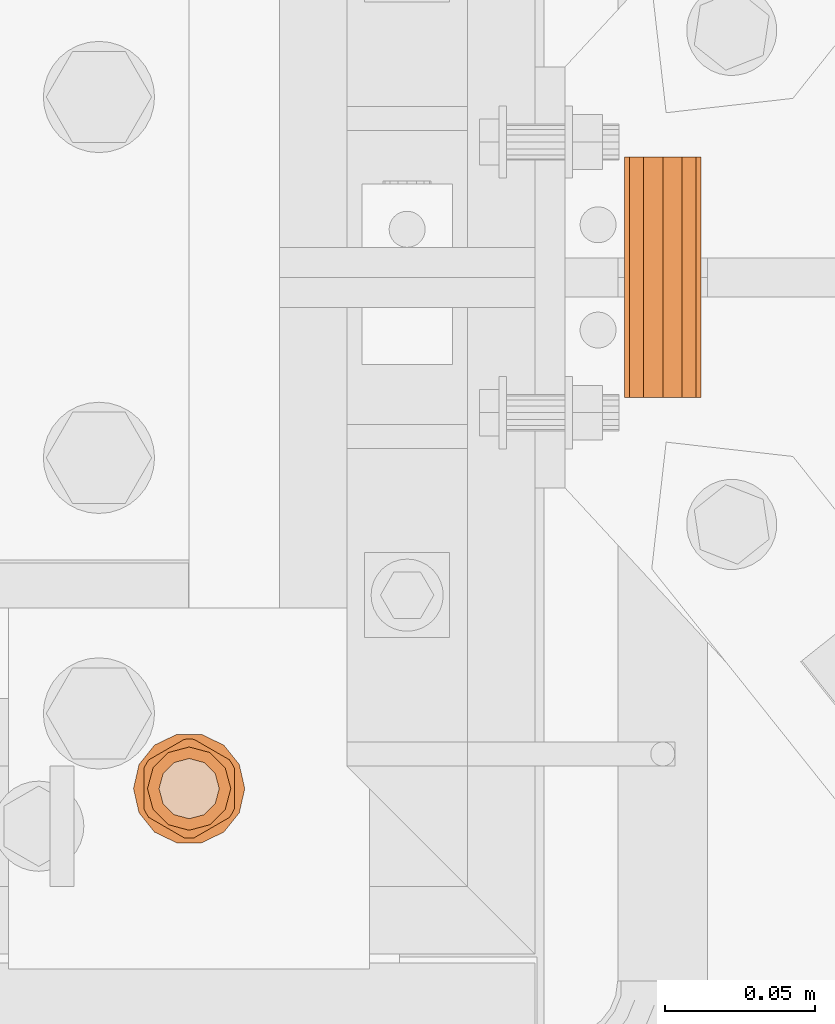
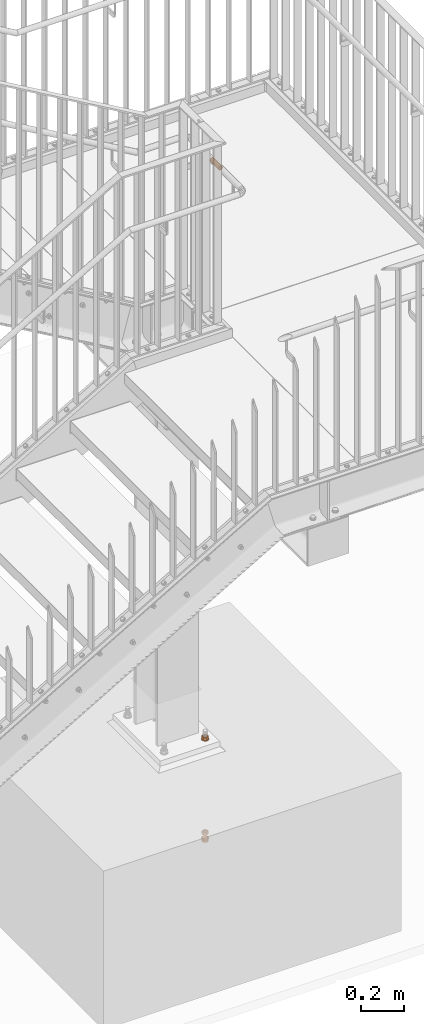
# One storey, part 143 of 145: 6 proxies.
"""IFC2X3 building model written with IfcOpenShell, lengths in millimetres."""

from ifc_helpers import new_model, entity, si_unit, converted_unit, origin_with_axes, place, context, project, spatial, faceted_brep, material, element, save


model = new_model("IFC2X3")

# Units and contexts
model_context = context("Model", 3, precision=1e-09, world=origin_with_axes())
ifc_project = project(units=[si_unit("LENGTHUNIT", "METRE", prefix="MILLI"), si_unit("AREAUNIT", "SQUARE_METRE"), si_unit("VOLUMEUNIT", "CUBIC_METRE"), converted_unit("PLANEANGLEUNIT", "DEGREE", entity("IfcPlaneAngleMeasure", 0.01745329), si_unit("PLANEANGLEUNIT", "RADIAN"), dimensions=[0, 0, 0, 0, 0, 0, 0])], contexts=[model_context])

# Site, building, storey
site_placement = place(None, origin_with_axes())
site = spatial("IfcSite", under=ifc_project, at=site_placement, Name="BZ1 Grund- und Mittelschule 85716 Unterschlei?heim", CompositionType="ELEMENT")
building_placement = place(site_placement, origin_with_axes())
building = spatial("IfcBuilding", under=site, at=building_placement, Name="Struktur 1", CompositionType="ELEMENT")
storey_placement = place(building_placement, origin_with_axes())
storey = spatial("IfcBuildingStorey", under=building, at=storey_placement, Name="Default Storey", CompositionType="ELEMENT", Elevation=0.0)

# Proxies
ifc_material_1 = material(Name="A2")
proxy_1_placement = place(None, origin_with_axes())
element("IfcBuildingElementProxy", 1, at=proxy_1_placement, inside=storey, material=ifc_material_1, ObjectType="-", context=model_context, shape_type="Brep", body=[
    faceted_brep([(20335.371914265, -1872.772872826, -1245.484455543), (20334.838094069, -1873.697476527, -1245.484455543), (20332.839179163, -1871.927, -1247.0), (20335.371914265, -1872.772872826, -1232.515544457), (20334.838094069, -1873.697476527, -1232.515544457), (20334.245508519, -1874.585563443, -1245.484455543), (20334.245508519, -1874.585563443, -1232.515544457), (20335.844727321, -1871.815635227, -1245.484455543), (20335.844727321, -1871.815635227, -1232.515544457), (20332.839179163, -1871.927, -1231.0), (20335.844727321, -1865.002, -1246.33604719), (20334.694727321, -1865.002, -1247.0), (20328.344727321, -1877.992381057, -1246.33604719), (20328.344727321, -1877.992381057, -1231.66395281), (20322.443946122, -1881.39919867, -1232.515544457), (20322.443946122, -1881.39919867, -1245.484455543), (20321.378547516, -1881.468349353, -1245.484455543), (20321.378547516, -1881.468349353, -1232.515544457), (20320.310907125, -1881.468349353, -1232.515544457), (20320.310907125, -1881.468349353, -1245.484455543), (20335.844727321, -1858.188364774, -1245.484455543), (20335.844727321, -1858.188364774, -1232.515544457), (20335.844727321, -1865.002, -1231.66395281), (20327.769727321, -1853.007548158, -1247.0), (20332.839179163, -1858.077, -1247.0), (20327.769727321, -1876.996451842, -1247.0), (20320.844727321, -1878.852, -1247.0), (20313.919727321, -1876.996451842, -1247.0), (20308.850275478, -1871.927, -1247.0), (20306.994727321, -1865.002, -1247.0), (20308.850275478, -1858.077, -1247.0), (20313.919727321, -1853.007548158, -1247.0), (20320.844727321, -1851.152, -1247.0), (20330.844727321, -1865.002, -1247.0), (20329.504981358, -1860.002, -1247.0), (20325.844727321, -1856.341745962, -1247.0), (20320.844727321, -1855.002, -1247.0), (20315.844727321, -1856.341745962, -1247.0), (20312.184473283, -1860.002, -1247.0), (20310.844727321, -1865.002, -1247.0), (20312.184473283, -1870.002, -1247.0), (20315.844727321, -1873.662254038, -1247.0), (20320.844727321, -1875.002, -1247.0), (20325.844727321, -1873.662254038, -1247.0), (20329.504981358, -1870.002, -1247.0), (20329.504981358, -1870.002, -1231.0), (20325.844727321, -1873.662254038, -1231.0), (20327.769727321, -1876.996451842, -1231.0), (20320.844727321, -1878.852, -1231.0), (20335.371914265, -1857.231127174, -1245.484455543), (20335.371914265, -1857.231127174, -1232.515544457), (20334.694727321, -1865.002, -1231.0), (20332.839179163, -1858.077, -1231.0), (20327.769727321, -1853.007548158, -1231.0), (20320.844727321, -1851.152, -1231.0), (20313.919727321, -1853.007548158, -1231.0), (20308.850275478, -1858.077, -1231.0), (20306.994727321, -1865.002, -1231.0), (20308.850275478, -1871.927, -1231.0), (20313.919727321, -1876.996451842, -1231.0), (20330.844727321, -1865.002, -1231.0), (20320.844727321, -1875.002, -1231.0), (20315.844727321, -1873.662254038, -1231.0), (20312.184473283, -1870.002, -1231.0), (20310.844727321, -1865.002, -1231.0), (20312.184473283, -1860.002, -1231.0), (20315.844727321, -1856.341745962, -1231.0), (20320.844727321, -1855.002, -1231.0), (20325.844727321, -1856.341745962, -1231.0), (20329.504981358, -1860.002, -1231.0), (20319.245508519, -1881.39919867, -1245.484455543), (20319.245508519, -1881.39919867, -1232.515544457), (20334.838094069, -1856.306523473, -1245.484455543), (20334.838094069, -1856.306523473, -1232.515544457), (20313.344727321, -1877.992381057, -1246.33604719), (20313.344727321, -1877.992381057, -1231.66395281), (20307.443946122, -1874.585563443, -1232.515544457), (20307.443946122, -1874.585563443, -1245.484455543), (20334.245508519, -1855.418436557, -1245.484455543), (20334.245508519, -1855.418436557, -1232.515544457), (20328.344727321, -1852.011618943, -1246.33604719), (20322.443946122, -1848.60480133, -1245.484455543), (20322.443946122, -1848.60480133, -1232.515544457), (20328.344727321, -1852.011618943, -1231.66395281), (20306.851360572, -1873.697476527, -1232.515544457), (20306.851360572, -1873.697476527, -1245.484455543), (20306.317540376, -1872.772872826, -1232.515544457), (20306.317540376, -1872.772872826, -1245.484455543), (20321.378547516, -1848.535650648, -1245.484455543), (20321.378547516, -1848.535650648, -1232.515544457), (20320.310907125, -1848.535650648, -1245.484455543), (20320.310907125, -1848.535650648, -1232.515544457), (20305.844727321, -1871.815635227, -1232.515544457), (20305.844727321, -1871.815635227, -1245.484455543), (20319.245508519, -1848.60480133, -1245.484455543), (20319.245508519, -1848.60480133, -1232.515544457), (20305.844727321, -1865.002, -1246.33604719), (20313.344727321, -1852.011618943, -1246.33604719), (20307.443946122, -1855.418436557, -1245.484455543), (20307.443946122, -1855.418436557, -1232.515544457), (20313.344727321, -1852.011618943, -1231.66395281), (20305.844727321, -1865.002, -1231.66395281), (20305.844727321, -1858.188364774, -1232.515544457), (20305.844727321, -1858.188364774, -1245.484455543), (20306.317540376, -1857.231127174, -1245.484455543), (20306.317540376, -1857.231127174, -1232.515544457), (20306.851360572, -1856.306523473, -1245.484455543), (20306.851360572, -1856.306523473, -1232.515544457)], [[[0, 1, 2]], [[0, 3, 4, 1]], [[5, 2, 1]], [[1, 4, 6, 5]], [[7, 0, 2]], [[3, 0, 7, 8]], [[9, 4, 3]], [[10, 7, 11]], [[7, 2, 11]], [[5, 12, 2]], [[6, 13, 14, 15, 12, 5]], [[9, 6, 4]], [[16, 17, 18, 19]], [[17, 16, 15, 14]], [[10, 20, 21, 22, 8, 7]], [[9, 3, 8]], [[20, 10, 11]], [[23, 24, 11, 2, 25, 26, 27, 28, 29, 30, 31, 32], [33, 34, 35, 36, 37, 38, 39, 40, 41, 42, 43, 44]], [[16, 19, 26]], [[12, 25, 2]], [[45, 44, 43, 46]], [[9, 47, 6]], [[48, 17, 14]], [[49, 50, 21, 20]], [[51, 9, 8]], [[9, 51, 52, 53, 54, 55, 56, 57, 58, 59, 48, 47], [60, 45, 46, 61, 62, 63, 64, 65, 66, 67, 68, 69]], [[44, 45, 60, 33]], [[20, 24, 49]], [[20, 11, 24]], [[70, 26, 19]], [[12, 15, 25]], [[15, 16, 26]], [[48, 14, 13]], [[47, 13, 6]], [[19, 18, 71, 70]], [[48, 18, 17]], [[72, 73, 50, 49]], [[51, 8, 22]], [[72, 49, 24]], [[70, 74, 26]], [[15, 26, 25]], [[46, 43, 42, 61]], [[47, 48, 13]], [[48, 71, 18]], [[71, 75, 76, 77, 74, 70]], [[33, 60, 69, 34]], [[78, 79, 73, 72]], [[52, 50, 73]], [[51, 22, 21]], [[52, 21, 50]], [[78, 72, 24]], [[74, 27, 26]], [[48, 59, 71]], [[80, 81, 82, 83, 79, 78]], [[52, 73, 79]], [[52, 51, 21]], [[78, 24, 23]], [[74, 77, 27]], [[61, 42, 41, 62]], [[59, 75, 71]], [[77, 76, 84, 85]], [[34, 69, 68, 35]], [[52, 79, 83]], [[80, 78, 23]], [[81, 80, 32]], [[77, 28, 27]], [[59, 58, 75]], [[58, 76, 75]], [[77, 85, 28]], [[85, 84, 86, 87]], [[88, 89, 82, 81]], [[53, 52, 83]], [[80, 23, 32]], [[81, 32, 88]], [[62, 41, 40, 63]], [[58, 84, 76]], [[85, 87, 28]], [[35, 68, 67, 36]], [[90, 91, 89, 88]], [[53, 83, 82]], [[54, 82, 89]], [[90, 88, 32]], [[86, 84, 58]], [[87, 86, 92, 93]], [[93, 28, 87]], [[39, 64, 63, 40]], [[91, 90, 94, 95]], [[54, 89, 91]], [[54, 53, 82]], [[94, 90, 32]], [[92, 86, 58]], [[93, 96, 28]], [[64, 39, 38, 65]], [[37, 66, 65, 38]], [[36, 67, 66, 37]], [[54, 91, 95]], [[94, 32, 31]], [[97, 98, 99, 100, 95, 94]], [[96, 29, 28]], [[92, 58, 57]], [[92, 101, 102, 103, 96, 93]], [[54, 95, 100]], [[97, 94, 31]], [[96, 103, 29]], [[101, 92, 57]], [[55, 54, 100]], [[97, 31, 30]], [[103, 30, 29]], [[101, 57, 56]], [[55, 100, 99]], [[98, 97, 30]], [[103, 104, 30]], [[103, 102, 105, 104]], [[102, 101, 56]], [[99, 56, 55]], [[98, 30, 106]], [[99, 98, 106, 107]], [[104, 106, 30]], [[102, 56, 105]], [[99, 107, 56]], [[104, 105, 107, 106]], [[107, 105, 56]]]),
])
proxy_2_placement = place(None, origin_with_axes())
element("IfcBuildingElementProxy", 2, at=proxy_2_placement, inside=storey, material=ifc_material_1, ObjectType="-", context=model_context, shape_type="Brep", body=[
    faceted_brep([(20334.838094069, -1873.697476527, -1274.515544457), (20335.371914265, -1872.772872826, -1274.515544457), (20332.839179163, -1871.927, -1273.0), (20335.371914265, -1872.772872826, -1287.484455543), (20334.838094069, -1873.697476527, -1287.484455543), (20334.245508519, -1874.585563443, -1274.515544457), (20334.245508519, -1874.585563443, -1287.484455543), (20335.844727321, -1871.815635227, -1274.515544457), (20335.844727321, -1871.815635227, -1287.484455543), (20332.839179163, -1871.927, -1289.0), (20335.844727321, -1865.002, -1273.66395281), (20334.694727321, -1865.002, -1273.0), (20328.344727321, -1877.992381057, -1273.66395281), (20328.344727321, -1877.992381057, -1288.33604719), (20322.443946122, -1881.39919867, -1274.515544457), (20322.443946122, -1881.39919867, -1287.484455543), (20321.378547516, -1881.468349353, -1287.484455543), (20321.378547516, -1881.468349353, -1274.515544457), (20320.310907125, -1881.468349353, -1274.515544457), (20320.310907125, -1881.468349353, -1287.484455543), (20335.844727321, -1858.188364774, -1274.515544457), (20335.844727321, -1865.002, -1288.33604719), (20335.844727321, -1858.188364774, -1287.484455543), (20332.839179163, -1858.077, -1273.0), (20327.769727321, -1853.007548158, -1273.0), (20320.844727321, -1851.152, -1273.0), (20313.919727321, -1853.007548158, -1273.0), (20308.850275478, -1858.077, -1273.0), (20306.994727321, -1865.002, -1273.0), (20308.850275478, -1871.927, -1273.0), (20313.919727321, -1876.996451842, -1273.0), (20320.844727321, -1878.852, -1273.0), (20327.769727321, -1876.996451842, -1273.0), (20330.844727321, -1865.002, -1273.0), (20329.504981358, -1870.002, -1273.0), (20325.844727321, -1873.662254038, -1273.0), (20320.844727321, -1875.002, -1273.0), (20315.844727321, -1873.662254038, -1273.0), (20312.184473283, -1870.002, -1273.0), (20310.844727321, -1865.002, -1273.0), (20312.184473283, -1860.002, -1273.0), (20315.844727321, -1856.341745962, -1273.0), (20320.844727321, -1855.002, -1273.0), (20325.844727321, -1856.341745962, -1273.0), (20329.504981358, -1860.002, -1273.0), (20329.504981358, -1870.002, -1289.0), (20325.844727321, -1873.662254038, -1289.0), (20327.769727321, -1876.996451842, -1289.0), (20320.844727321, -1878.852, -1289.0), (20335.371914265, -1857.231127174, -1287.484455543), (20335.371914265, -1857.231127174, -1274.515544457), (20334.694727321, -1865.002, -1289.0), (20330.844727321, -1865.002, -1289.0), (20329.504981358, -1860.002, -1289.0), (20325.844727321, -1856.341745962, -1289.0), (20320.844727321, -1855.002, -1289.0), (20315.844727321, -1856.341745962, -1289.0), (20312.184473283, -1860.002, -1289.0), (20310.844727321, -1865.002, -1289.0), (20312.184473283, -1870.002, -1289.0), (20315.844727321, -1873.662254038, -1289.0), (20320.844727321, -1875.002, -1289.0), (20319.245508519, -1881.39919867, -1274.515544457), (20319.245508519, -1881.39919867, -1287.484455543), (20334.838094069, -1856.306523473, -1287.484455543), (20334.838094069, -1856.306523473, -1274.515544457), (20313.344727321, -1877.992381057, -1273.66395281), (20313.344727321, -1877.992381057, -1288.33604719), (20307.443946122, -1874.585563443, -1274.515544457), (20307.443946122, -1874.585563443, -1287.484455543), (20334.245508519, -1855.418436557, -1287.484455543), (20334.245508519, -1855.418436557, -1274.515544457), (20332.839179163, -1858.077, -1289.0), (20313.919727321, -1876.996451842, -1289.0), (20322.443946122, -1848.60480133, -1274.515544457), (20328.344727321, -1852.011618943, -1273.66395281), (20328.344727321, -1852.011618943, -1288.33604719), (20322.443946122, -1848.60480133, -1287.484455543), (20306.851360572, -1873.697476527, -1274.515544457), (20306.851360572, -1873.697476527, -1287.484455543), (20308.850275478, -1871.927, -1289.0), (20306.317540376, -1872.772872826, -1274.515544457), (20306.317540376, -1872.772872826, -1287.484455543), (20321.378547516, -1848.535650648, -1287.484455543), (20321.378547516, -1848.535650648, -1274.515544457), (20327.769727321, -1853.007548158, -1289.0), (20320.310907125, -1848.535650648, -1287.484455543), (20320.310907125, -1848.535650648, -1274.515544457), (20320.844727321, -1851.152, -1289.0), (20305.844727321, -1871.815635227, -1274.515544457), (20305.844727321, -1871.815635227, -1287.484455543), (20319.245508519, -1848.60480133, -1287.484455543), (20319.245508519, -1848.60480133, -1274.515544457), (20305.844727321, -1865.002, -1273.66395281), (20307.443946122, -1855.418436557, -1274.515544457), (20313.344727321, -1852.011618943, -1273.66395281), (20313.344727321, -1852.011618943, -1288.33604719), (20307.443946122, -1855.418436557, -1287.484455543), (20306.994727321, -1865.002, -1289.0), (20305.844727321, -1865.002, -1288.33604719), (20305.844727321, -1858.188364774, -1274.515544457), (20305.844727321, -1858.188364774, -1287.484455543), (20313.919727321, -1853.007548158, -1289.0), (20308.850275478, -1858.077, -1289.0), (20306.317540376, -1857.231127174, -1274.515544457), (20306.317540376, -1857.231127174, -1287.484455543), (20306.851360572, -1856.306523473, -1274.515544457), (20306.851360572, -1856.306523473, -1287.484455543)], [[[0, 1, 2]], [[3, 1, 0, 4]], [[2, 5, 0]], [[4, 0, 5, 6]], [[1, 7, 2]], [[1, 3, 8, 7]], [[4, 9, 3]], [[7, 10, 11]], [[2, 7, 11]], [[12, 5, 2]], [[13, 6, 5, 12, 14, 15]], [[6, 9, 4]], [[16, 17, 18, 19]], [[17, 16, 15, 14]], [[20, 10, 7, 8, 21, 22]], [[3, 9, 8]], [[10, 20, 11]], [[23, 24, 25, 26, 27, 28, 29, 30, 31, 32, 2, 11], [33, 34, 35, 36, 37, 38, 39, 40, 41, 42, 43, 44]], [[18, 17, 31]], [[32, 12, 2]], [[34, 45, 46, 35]], [[47, 9, 6]], [[16, 48, 15]], [[49, 50, 20, 22]], [[9, 51, 8]], [[45, 52, 53, 54, 55, 56, 57, 58, 59, 60, 61, 46]], [[45, 34, 33, 52]], [[23, 20, 50]], [[11, 20, 23]], [[31, 62, 18]], [[14, 12, 32]], [[17, 14, 31]], [[15, 48, 13]], [[13, 47, 6]], [[19, 18, 62, 63]], [[19, 48, 16]], [[64, 65, 50, 49]], [[8, 51, 21]], [[50, 65, 23]], [[66, 62, 31]], [[31, 14, 32]], [[35, 46, 61, 36]], [[48, 47, 13]], [[63, 48, 19]], [[67, 63, 62, 66, 68, 69]], [[52, 33, 44, 53]], [[70, 71, 65, 64]], [[49, 72, 64]], [[21, 51, 22]], [[22, 72, 49]], [[65, 71, 23]], [[30, 66, 31]], [[73, 48, 63]], [[74, 75, 71, 70, 76, 77]], [[64, 72, 70]], [[51, 72, 22]], [[23, 71, 24]], [[68, 66, 30]], [[36, 61, 60, 37]], [[67, 73, 63]], [[69, 68, 78, 79]], [[53, 44, 43, 54]], [[70, 72, 76]], [[71, 75, 24]], [[75, 74, 25]], [[29, 68, 30]], [[80, 73, 67]], [[69, 80, 67]], [[78, 68, 29]], [[79, 78, 81, 82]], [[83, 84, 74, 77]], [[72, 85, 76]], [[24, 75, 25]], [[25, 74, 84]], [[37, 60, 59, 38]], [[79, 80, 69]], [[81, 78, 29]], [[54, 43, 42, 55]], [[86, 87, 84, 83]], [[76, 85, 77]], [[77, 88, 83]], [[84, 87, 25]], [[79, 82, 80]], [[82, 81, 89, 90]], [[29, 89, 81]], [[58, 39, 38, 59]], [[87, 86, 91, 92]], [[83, 88, 86]], [[85, 88, 77]], [[87, 92, 25]], [[82, 90, 80]], [[93, 89, 29]], [[39, 58, 57, 40]], [[56, 41, 40, 57]], [[55, 42, 41, 56]], [[86, 88, 91]], [[25, 92, 26]], [[94, 95, 92, 91, 96, 97]], [[28, 93, 29]], [[80, 90, 98]], [[99, 90, 89, 93, 100, 101]], [[91, 88, 96]], [[92, 95, 26]], [[100, 93, 28]], [[90, 99, 98]], [[88, 102, 96]], [[26, 95, 27]], [[27, 100, 28]], [[98, 99, 103]], [[96, 102, 97]], [[95, 94, 27]], [[104, 100, 27]], [[101, 100, 104, 105]], [[99, 101, 103]], [[103, 97, 102]], [[27, 94, 106]], [[94, 97, 107, 106]], [[106, 104, 27]], [[103, 101, 105]], [[107, 97, 103]], [[105, 104, 106, 107]], [[105, 107, 103]]]),
])
proxy_3_placement = place(None, origin_with_axes())
element("IfcBuildingElementProxy", 3, at=proxy_3_placement, inside=storey, material=ifc_material_1, ObjectType="-", context=model_context, shape_type="Brep", body=[
    faceted_brep([(20324.961364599, -1846.965833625, -1273.0), (20332.379288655, -1850.538117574, -1273.0), (20337.512651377, -1856.975150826, -1273.0), (20339.344727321, -1865.002, -1273.0), (20337.512651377, -1873.028849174, -1273.0), (20332.379288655, -1879.465882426, -1273.0), (20324.961364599, -1883.038166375, -1273.0), (20316.728090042, -1883.038166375, -1273.0), (20309.310165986, -1879.465882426, -1273.0), (20304.176803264, -1873.028849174, -1273.0), (20302.344727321, -1865.002, -1273.0), (20304.176803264, -1856.975150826, -1273.0), (20309.310165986, -1850.538117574, -1273.0), (20316.728090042, -1846.965833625, -1273.0), (20320.844727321, -1854.502, -1273.0), (20315.594727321, -1855.90873326, -1273.0), (20311.751460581, -1859.752, -1273.0), (20310.344727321, -1865.002, -1273.0), (20311.751460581, -1870.252, -1273.0), (20315.594727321, -1874.09526674, -1273.0), (20320.844727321, -1875.502, -1273.0), (20326.094727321, -1874.09526674, -1273.0), (20329.93799406, -1870.252, -1273.0), (20331.344727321, -1865.002, -1273.0), (20329.93799406, -1859.752, -1273.0), (20326.094727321, -1855.90873326, -1273.0), (20309.310165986, -1850.538117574, -1270.0), (20316.728090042, -1846.965833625, -1270.0), (20315.594727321, -1855.90873326, -1270.0), (20320.844727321, -1854.502, -1270.0), (20326.094727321, -1855.90873326, -1270.0), (20329.93799406, -1859.752, -1270.0), (20331.344727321, -1865.002, -1270.0), (20329.93799406, -1870.252, -1270.0), (20326.094727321, -1874.09526674, -1270.0), (20320.844727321, -1875.502, -1270.0), (20315.594727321, -1874.09526674, -1270.0), (20311.751460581, -1870.252, -1270.0), (20310.344727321, -1865.002, -1270.0), (20311.751460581, -1859.752, -1270.0), (20304.176803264, -1856.975150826, -1270.0), (20302.344727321, -1865.002, -1270.0), (20324.961364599, -1846.965833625, -1270.0), (20304.176803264, -1873.028849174, -1270.0), (20332.379288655, -1850.538117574, -1270.0), (20309.310165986, -1879.465882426, -1270.0), (20337.512651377, -1856.975150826, -1270.0), (20316.728090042, -1883.038166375, -1270.0), (20339.344727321, -1865.002, -1270.0), (20324.961364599, -1883.038166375, -1270.0), (20337.512651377, -1873.028849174, -1270.0), (20332.379288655, -1879.465882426, -1270.0)], [[[0, 1, 2, 3, 4, 5, 6, 7, 8, 9, 10, 11, 12, 13], [14, 15, 16, 17, 18, 19, 20, 21, 22, 23, 24, 25]], [[12, 26, 27, 13]], [[28, 29, 30, 31, 32, 33, 34, 35, 36, 37, 38, 39]], [[26, 12, 11, 40]], [[15, 28, 39, 16]], [[40, 11, 10, 41]], [[28, 15, 14, 29]], [[13, 27, 42, 0]], [[16, 39, 38, 17]], [[41, 10, 9, 43]], [[29, 14, 25, 30]], [[0, 42, 44, 1]], [[17, 38, 37, 18]], [[43, 9, 8, 45]], [[30, 25, 24, 31]], [[1, 44, 46, 2]], [[18, 37, 36, 19]], [[45, 8, 7, 47]], [[31, 24, 23, 32]], [[48, 3, 2, 46]], [[19, 36, 35, 20]], [[47, 7, 6, 49]], [[3, 48, 50, 4]], [[32, 23, 22, 33]], [[51, 5, 4, 50]], [[49, 6, 5, 51]], [[20, 35, 34, 21]], [[33, 22, 21, 34]]]),
])
proxy_4_placement = place(None, origin_with_axes())
element("IfcBuildingElementProxy", 4, at=proxy_4_placement, inside=storey, material=ifc_material_1, ObjectType="-", context=model_context, shape_type="Brep", body=[
    faceted_brep([(20332.379288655, -1850.538117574, -707.0), (20324.961364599, -1846.965833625, -707.0), (20316.728090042, -1846.965833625, -707.0), (20309.310165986, -1850.538117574, -707.0), (20304.176803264, -1856.975150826, -707.0), (20302.344727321, -1865.002, -707.0), (20304.176803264, -1873.028849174, -707.0), (20309.310165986, -1879.465882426, -707.0), (20316.728090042, -1883.038166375, -707.0), (20324.961364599, -1883.038166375, -707.0), (20332.379288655, -1879.465882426, -707.0), (20337.512651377, -1873.028849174, -707.0), (20339.344727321, -1865.002, -707.0), (20337.512651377, -1856.975150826, -707.0), (20320.844727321, -1854.502, -707.0), (20326.094727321, -1855.90873326, -707.0), (20329.93799406, -1859.752, -707.0), (20331.344727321, -1865.002, -707.0), (20329.93799406, -1870.252, -707.0), (20326.094727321, -1874.09526674, -707.0), (20320.844727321, -1875.502, -707.0), (20315.594727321, -1874.09526674, -707.0), (20311.751460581, -1870.252, -707.0), (20310.344727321, -1865.002, -707.0), (20311.751460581, -1859.752, -707.0), (20315.594727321, -1855.90873326, -707.0), (20309.310165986, -1850.538117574, -710.0), (20316.728090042, -1846.965833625, -710.0), (20324.961364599, -1846.965833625, -710.0), (20332.379288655, -1850.538117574, -710.0), (20337.512651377, -1856.975150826, -710.0), (20339.344727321, -1865.002, -710.0), (20337.512651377, -1873.028849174, -710.0), (20332.379288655, -1879.465882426, -710.0), (20324.961364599, -1883.038166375, -710.0), (20316.728090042, -1883.038166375, -710.0), (20309.310165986, -1879.465882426, -710.0), (20304.176803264, -1873.028849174, -710.0), (20302.344727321, -1865.002, -710.0), (20304.176803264, -1856.975150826, -710.0), (20320.844727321, -1854.502, -710.0), (20315.594727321, -1855.90873326, -710.0), (20311.751460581, -1859.752, -710.0), (20310.344727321, -1865.002, -710.0), (20311.751460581, -1870.252, -710.0), (20315.594727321, -1874.09526674, -710.0), (20320.844727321, -1875.502, -710.0), (20326.094727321, -1874.09526674, -710.0), (20329.93799406, -1870.252, -710.0), (20331.344727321, -1865.002, -710.0), (20329.93799406, -1859.752, -710.0), (20326.094727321, -1855.90873326, -710.0)], [[[0, 1, 2, 3, 4, 5, 6, 7, 8, 9, 10, 11, 12, 13], [14, 15, 16, 17, 18, 19, 20, 21, 22, 23, 24, 25]], [[26, 3, 2, 27]], [[26, 27, 28, 29, 30, 31, 32, 33, 34, 35, 36, 37, 38, 39], [40, 41, 42, 43, 44, 45, 46, 47, 48, 49, 50, 51]], [[3, 26, 39, 4]], [[41, 25, 24, 42]], [[4, 39, 38, 5]], [[25, 41, 40, 14]], [[27, 2, 1, 28]], [[42, 24, 23, 43]], [[5, 38, 37, 6]], [[14, 40, 51, 15]], [[28, 1, 0, 29]], [[43, 23, 22, 44]], [[6, 37, 36, 7]], [[15, 51, 50, 16]], [[29, 0, 13, 30]], [[44, 22, 21, 45]], [[7, 36, 35, 8]], [[16, 50, 49, 17]], [[12, 31, 30, 13]], [[45, 21, 20, 46]], [[8, 35, 34, 9]], [[31, 12, 11, 32]], [[17, 49, 48, 18]], [[10, 33, 32, 11]], [[9, 34, 33, 10]], [[46, 20, 19, 47]], [[18, 48, 47, 19]]]),
])
proxy_5_placement = place(None, origin_with_axes())
element("IfcBuildingElementProxy", 5, at=proxy_5_placement, inside=storey, material=ifc_material_1, ObjectType="-", context=model_context, shape_type="Brep", body=[
    faceted_brep([(20335.371914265, -1872.772872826, -705.484455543), (20334.838094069, -1873.697476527, -705.484455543), (20332.839179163, -1871.927, -707.0), (20335.371914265, -1872.772872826, -692.515544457), (20334.838094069, -1873.697476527, -692.515544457), (20334.245508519, -1874.585563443, -705.484455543), (20334.245508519, -1874.585563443, -692.515544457), (20335.844727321, -1871.815635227, -705.484455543), (20335.844727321, -1871.815635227, -692.515544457), (20332.839179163, -1871.927, -691.0), (20335.844727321, -1865.002, -706.33604719), (20334.694727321, -1865.002, -707.0), (20328.344727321, -1877.992381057, -706.33604719), (20328.344727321, -1877.992381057, -691.66395281), (20322.443946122, -1881.39919867, -692.515544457), (20322.443946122, -1881.39919867, -705.484455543), (20321.378547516, -1881.468349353, -705.484455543), (20321.378547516, -1881.468349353, -692.515544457), (20320.310907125, -1881.468349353, -692.515544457), (20320.310907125, -1881.468349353, -705.484455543), (20335.844727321, -1858.188364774, -705.484455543), (20335.844727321, -1858.188364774, -692.515544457), (20335.844727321, -1865.002, -691.66395281), (20327.769727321, -1853.007548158, -707.0), (20332.839179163, -1858.077, -707.0), (20327.769727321, -1876.996451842, -707.0), (20320.844727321, -1878.852, -707.0), (20313.919727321, -1876.996451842, -707.0), (20308.850275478, -1871.927, -707.0), (20306.994727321, -1865.002, -707.0), (20308.850275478, -1858.077, -707.0), (20313.919727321, -1853.007548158, -707.0), (20320.844727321, -1851.152, -707.0), (20330.844727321, -1865.002, -707.0), (20329.504981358, -1860.002, -707.0), (20325.844727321, -1856.341745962, -707.0), (20320.844727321, -1855.002, -707.0), (20315.844727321, -1856.341745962, -707.0), (20312.184473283, -1860.002, -707.0), (20310.844727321, -1865.002, -707.0), (20312.184473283, -1870.002, -707.0), (20315.844727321, -1873.662254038, -707.0), (20320.844727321, -1875.002, -707.0), (20325.844727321, -1873.662254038, -707.0), (20329.504981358, -1870.002, -707.0), (20329.504981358, -1870.002, -691.0), (20325.844727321, -1873.662254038, -691.0), (20327.769727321, -1876.996451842, -691.0), (20320.844727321, -1878.852, -691.0), (20335.371914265, -1857.231127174, -705.484455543), (20335.371914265, -1857.231127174, -692.515544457), (20334.694727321, -1865.002, -691.0), (20332.839179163, -1858.077, -691.0), (20327.769727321, -1853.007548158, -691.0), (20320.844727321, -1851.152, -691.0), (20313.919727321, -1853.007548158, -691.0), (20308.850275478, -1858.077, -691.0), (20306.994727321, -1865.002, -691.0), (20308.850275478, -1871.927, -691.0), (20313.919727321, -1876.996451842, -691.0), (20330.844727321, -1865.002, -691.0), (20320.844727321, -1875.002, -691.0), (20315.844727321, -1873.662254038, -691.0), (20312.184473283, -1870.002, -691.0), (20310.844727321, -1865.002, -691.0), (20312.184473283, -1860.002, -691.0), (20315.844727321, -1856.341745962, -691.0), (20320.844727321, -1855.002, -691.0), (20325.844727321, -1856.341745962, -691.0), (20329.504981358, -1860.002, -691.0), (20319.245508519, -1881.39919867, -705.484455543), (20319.245508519, -1881.39919867, -692.515544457), (20334.838094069, -1856.306523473, -705.484455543), (20334.838094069, -1856.306523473, -692.515544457), (20313.344727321, -1877.992381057, -706.33604719), (20313.344727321, -1877.992381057, -691.66395281), (20307.443946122, -1874.585563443, -692.515544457), (20307.443946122, -1874.585563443, -705.484455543), (20334.245508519, -1855.418436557, -705.484455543), (20334.245508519, -1855.418436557, -692.515544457), (20328.344727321, -1852.011618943, -706.33604719), (20322.443946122, -1848.60480133, -705.484455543), (20322.443946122, -1848.60480133, -692.515544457), (20328.344727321, -1852.011618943, -691.66395281), (20306.851360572, -1873.697476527, -692.515544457), (20306.851360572, -1873.697476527, -705.484455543), (20306.317540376, -1872.772872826, -692.515544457), (20306.317540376, -1872.772872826, -705.484455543), (20321.378547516, -1848.535650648, -705.484455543), (20321.378547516, -1848.535650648, -692.515544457), (20320.310907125, -1848.535650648, -705.484455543), (20320.310907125, -1848.535650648, -692.515544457), (20305.844727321, -1871.815635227, -692.515544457), (20305.844727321, -1871.815635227, -705.484455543), (20319.245508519, -1848.60480133, -705.484455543), (20319.245508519, -1848.60480133, -692.515544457), (20305.844727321, -1865.002, -706.33604719), (20313.344727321, -1852.011618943, -706.33604719), (20307.443946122, -1855.418436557, -705.484455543), (20307.443946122, -1855.418436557, -692.515544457), (20313.344727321, -1852.011618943, -691.66395281), (20305.844727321, -1865.002, -691.66395281), (20305.844727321, -1858.188364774, -692.515544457), (20305.844727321, -1858.188364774, -705.484455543), (20306.317540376, -1857.231127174, -705.484455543), (20306.317540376, -1857.231127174, -692.515544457), (20306.851360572, -1856.306523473, -705.484455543), (20306.851360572, -1856.306523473, -692.515544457)], [[[0, 1, 2]], [[0, 3, 4, 1]], [[5, 2, 1]], [[1, 4, 6, 5]], [[7, 0, 2]], [[3, 0, 7, 8]], [[9, 4, 3]], [[10, 7, 11]], [[7, 2, 11]], [[5, 12, 2]], [[6, 13, 14, 15, 12, 5]], [[9, 6, 4]], [[16, 17, 18, 19]], [[17, 16, 15, 14]], [[10, 20, 21, 22, 8, 7]], [[9, 3, 8]], [[20, 10, 11]], [[23, 24, 11, 2, 25, 26, 27, 28, 29, 30, 31, 32], [33, 34, 35, 36, 37, 38, 39, 40, 41, 42, 43, 44]], [[16, 19, 26]], [[12, 25, 2]], [[45, 44, 43, 46]], [[9, 47, 6]], [[48, 17, 14]], [[49, 50, 21, 20]], [[51, 9, 8]], [[9, 51, 52, 53, 54, 55, 56, 57, 58, 59, 48, 47], [60, 45, 46, 61, 62, 63, 64, 65, 66, 67, 68, 69]], [[44, 45, 60, 33]], [[20, 24, 49]], [[20, 11, 24]], [[70, 26, 19]], [[12, 15, 25]], [[15, 16, 26]], [[48, 14, 13]], [[47, 13, 6]], [[19, 18, 71, 70]], [[48, 18, 17]], [[72, 73, 50, 49]], [[51, 8, 22]], [[72, 49, 24]], [[70, 74, 26]], [[15, 26, 25]], [[46, 43, 42, 61]], [[47, 48, 13]], [[48, 71, 18]], [[71, 75, 76, 77, 74, 70]], [[33, 60, 69, 34]], [[78, 79, 73, 72]], [[52, 50, 73]], [[51, 22, 21]], [[52, 21, 50]], [[78, 72, 24]], [[74, 27, 26]], [[48, 59, 71]], [[80, 81, 82, 83, 79, 78]], [[52, 73, 79]], [[52, 51, 21]], [[78, 24, 23]], [[74, 77, 27]], [[61, 42, 41, 62]], [[59, 75, 71]], [[77, 76, 84, 85]], [[34, 69, 68, 35]], [[52, 79, 83]], [[80, 78, 23]], [[81, 80, 32]], [[77, 28, 27]], [[59, 58, 75]], [[58, 76, 75]], [[77, 85, 28]], [[85, 84, 86, 87]], [[88, 89, 82, 81]], [[53, 52, 83]], [[80, 23, 32]], [[81, 32, 88]], [[62, 41, 40, 63]], [[58, 84, 76]], [[85, 87, 28]], [[35, 68, 67, 36]], [[90, 91, 89, 88]], [[53, 83, 82]], [[54, 82, 89]], [[90, 88, 32]], [[86, 84, 58]], [[87, 86, 92, 93]], [[93, 28, 87]], [[39, 64, 63, 40]], [[91, 90, 94, 95]], [[54, 89, 91]], [[54, 53, 82]], [[94, 90, 32]], [[92, 86, 58]], [[93, 96, 28]], [[64, 39, 38, 65]], [[37, 66, 65, 38]], [[36, 67, 66, 37]], [[54, 91, 95]], [[94, 32, 31]], [[97, 98, 99, 100, 95, 94]], [[96, 29, 28]], [[92, 58, 57]], [[92, 101, 102, 103, 96, 93]], [[54, 95, 100]], [[97, 94, 31]], [[96, 103, 29]], [[101, 92, 57]], [[55, 54, 100]], [[97, 31, 30]], [[103, 30, 29]], [[101, 57, 56]], [[55, 100, 99]], [[98, 97, 30]], [[103, 104, 30]], [[103, 102, 105, 104]], [[102, 101, 56]], [[99, 56, 55]], [[98, 30, 106]], [[99, 98, 106, 107]], [[104, 106, 30]], [[102, 56, 105]], [[99, 107, 56]], [[104, 105, 107, 106]], [[107, 105, 56]]]),
])
ifc_material_2 = material(Name="1.4301")
proxy_6_placement = place(None, origin_with_axes())
element("IfcBuildingElementProxy", 6, at=proxy_6_placement, inside=storey, material=ifc_material_2, ObjectType="-", context=model_context, shape_type="Brep", body=[
    faceted_brep([(20465.59472732, -1655.002, 2398.636364), (20467.302903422, -1655.002, 2405.011364), (20471.96972732, -1655.002, 2409.678187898), (20478.34472732, -1655.002, 2411.386364), (20484.71972732, -1655.002, 2409.678187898), (20489.386551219, -1655.002, 2405.011364), (20491.09472732, -1655.002, 2398.636364), (20489.386551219, -1655.002, 2392.261364), (20484.71972732, -1655.002, 2387.594540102), (20478.34472732, -1655.002, 2385.886364), (20471.96972732, -1655.002, 2387.594540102), (20467.302903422, -1655.002, 2392.261364), (20473.21972732, -1655.002, 2407.513124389), (20469.467966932, -1655.002, 2403.761364), (20468.09472732, -1655.002, 2398.636364), (20469.467966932, -1655.002, 2393.511364), (20473.21972732, -1655.002, 2389.759603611), (20478.34472732, -1655.002, 2388.386364), (20483.46972732, -1655.002, 2389.759603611), (20487.221487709, -1655.002, 2393.511364), (20488.59472732, -1655.002, 2398.636364), (20487.221487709, -1655.002, 2403.761364), (20483.46972732, -1655.002, 2407.513124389), (20478.34472732, -1655.002, 2408.886364), (20465.59472732, -1735.002, 2398.636364), (20467.302903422, -1735.002, 2392.261364), (20471.96972732, -1735.002, 2387.594540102), (20478.34472732, -1735.002, 2385.886364), (20484.71972732, -1735.002, 2387.594540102), (20489.386551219, -1735.002, 2392.261364), (20491.09472732, -1735.002, 2398.636364), (20489.386551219, -1735.002, 2405.011364), (20484.71972732, -1735.002, 2409.678187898), (20478.34472732, -1735.002, 2411.386364), (20471.96972732, -1735.002, 2409.678187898), (20467.302903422, -1735.002, 2405.011364), (20473.21972732, -1735.002, 2389.759603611), (20469.467966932, -1735.002, 2393.511364), (20468.09472732, -1735.002, 2398.636364), (20469.467966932, -1735.002, 2403.761364), (20473.21972732, -1735.002, 2407.513124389), (20478.34472732, -1735.002, 2408.886364), (20483.46972732, -1735.002, 2407.513124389), (20487.221487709, -1735.002, 2403.761364), (20488.59472732, -1735.002, 2398.636364), (20487.221487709, -1735.002, 2393.511364), (20483.46972732, -1735.002, 2389.759603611), (20478.34472732, -1735.002, 2388.386364)], [[[0, 1, 2, 3, 4, 5, 6, 7, 8, 9, 10, 11], [12, 13, 14, 15, 16, 17, 18, 19, 20, 21, 22, 23]], [[24, 25, 26, 27, 28, 29, 30, 31, 32, 33, 34, 35], [36, 37, 38, 39, 40, 41, 42, 43, 44, 45, 46, 47]], [[24, 0, 11, 25]], [[14, 38, 37, 15]], [[0, 24, 35, 1]], [[38, 14, 13, 39]], [[15, 37, 36, 16]], [[25, 11, 10, 26]], [[34, 2, 1, 35]], [[39, 13, 12, 40]], [[16, 36, 47, 17]], [[9, 27, 26, 10]], [[2, 34, 33, 3]], [[27, 9, 8, 28]], [[3, 33, 32, 4]], [[40, 12, 23, 41]], [[17, 47, 46, 18]], [[28, 8, 7, 29]], [[4, 32, 31, 5]], [[41, 23, 22, 42]], [[6, 30, 29, 7]], [[18, 46, 45, 19]], [[30, 6, 5, 31]], [[42, 22, 21, 43]], [[19, 45, 44, 20]], [[43, 21, 20, 44]]]),
])

save(model, "model.ifc")
